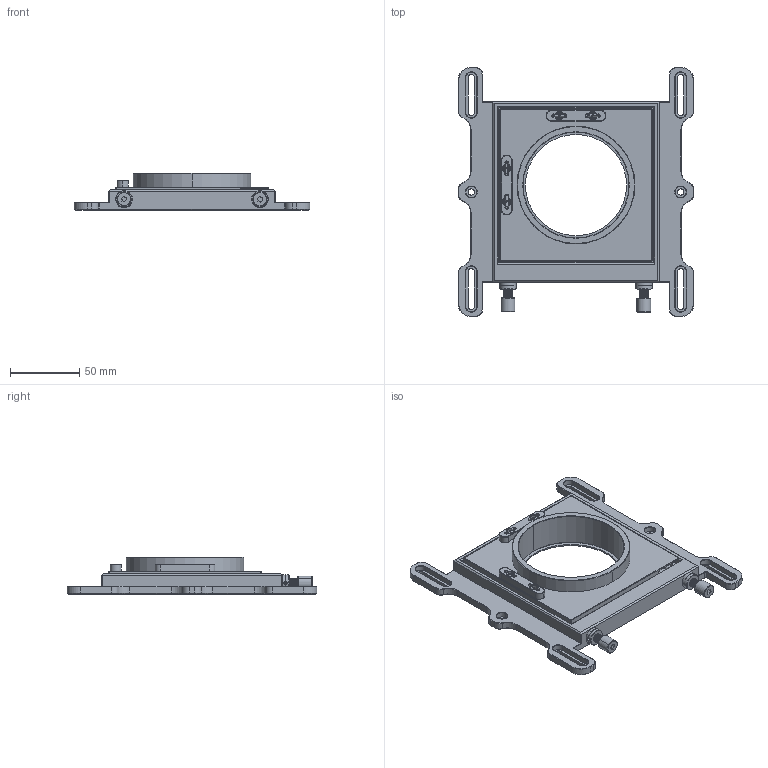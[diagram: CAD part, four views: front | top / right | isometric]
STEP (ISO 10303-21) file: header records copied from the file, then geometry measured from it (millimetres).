
FILE_DESCRIPTION (( 'STEP AP203' ), '1' );
FILE_NAME ('三英寸上方调节装配体第一版.STEP', '2026-10-12T01:01:24', ( '' ), ( '' ), 'SwSTEP 2.0', 'SolidWorks 2024', '' );
FILE_SCHEMA (( 'CONFIG_CONTROL_DESIGN' ));
Length unit declared in the file: millimetre
Products named in the file (14): 长顶杆2; 2短顶杆; 8mm珠子; 三英寸动板; 2×8金属销; 三角垫块; 8.5珠子; 2×12陶瓷销; 2螺母; 0.8×5×15; 三英寸上方调节装配体第一版; v垫块; 三英寸定板第一版; 2×35金属销
Assembly tree (25 placements, depth 2):
  三英寸上方调节装配体第一版
    8mm珠子
    三英寸动板
    2短顶杆
    v垫块
    三角垫块
    2螺母  x2
    长顶杆2
    8.5珠子  x2
    2×12陶瓷销  x4
    2×35金属销  x2
    2×8金属销  x4
    0.8×5×15  x4
    三英寸定板第一版
Bounding box: 170 x 180 x 26.89 mm (x, y, z)
Volume: 196291.9 mm3; surface area: 90006 mm2
Topology: 25 solids, 25 shells, 958 faces, 2365 edges, 1466 vertices
Faces by surface type: plane 351, cylinder 336, cone 211, bspline 38, torus 16, sphere 6
Entity records: 46732 total; most frequent: CARTESIAN_POINT 25460, ORIENTED_EDGE 4194, DIRECTION 3930, EDGE_CURVE 2097, AXIS2_PLACEMENT_3D 1400, VERTEX_POINT 1301, VECTOR 1130, LINE 1130
